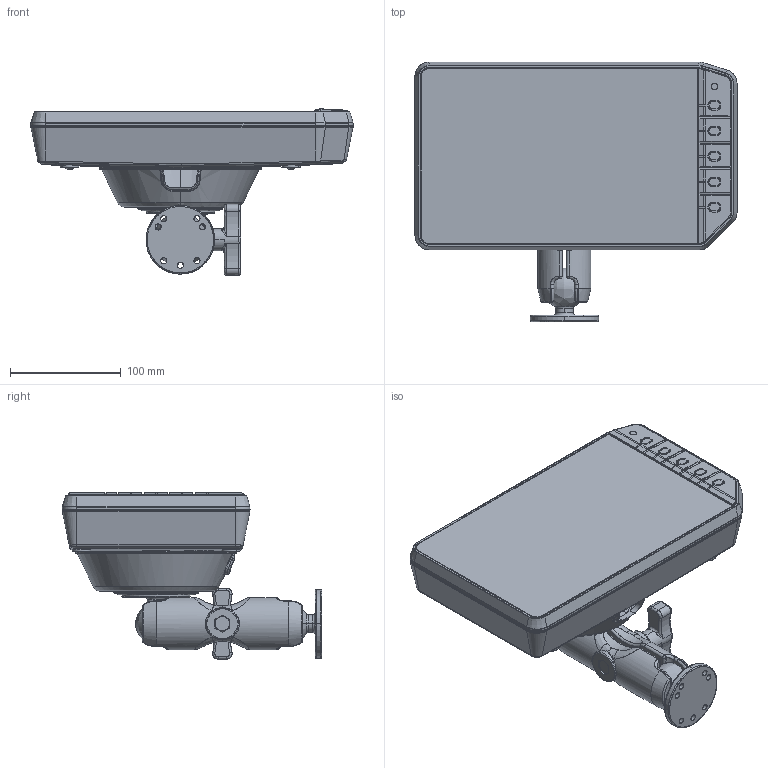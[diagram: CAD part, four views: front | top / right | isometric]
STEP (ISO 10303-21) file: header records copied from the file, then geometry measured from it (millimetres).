
FILE_DESCRIPTION(('STEP AP214'),'2;1');
FILE_NAME('425_1245 Strumento 10,1 pollici vers supporto RAM-Modello sicuro.stp','2022-10-17T15:49:14',(''),(''),'2008.1.107','THINKDESIGN','');
FILE_SCHEMA(('AUTOMOTIVE_DESIGN'));
Products named in the file (1): None
Bounding box: 290.78 x 234.24 x 150.12 mm (x, y, z)
Surface area: 254762.1 mm2 (no closed solid volume)
Topology: 0 solids, 0 shells, 1577 faces, 7834 edges, 7798 vertices
Faces by surface type: bspline 669, cylinder 535, plane 373
Entity records: 107580 total; most frequent: CARTESIAN_POINT 59947, COMPOSITE_CURVE_SEGMENT 7794, DIRECTION 6439, TRIMMED_CURVE 3783, VECTOR 2943, LINE 2943, B_SPLINE_CURVE_WITH_KNOTS 2044, AXIS2_PLACEMENT_3D 1748
